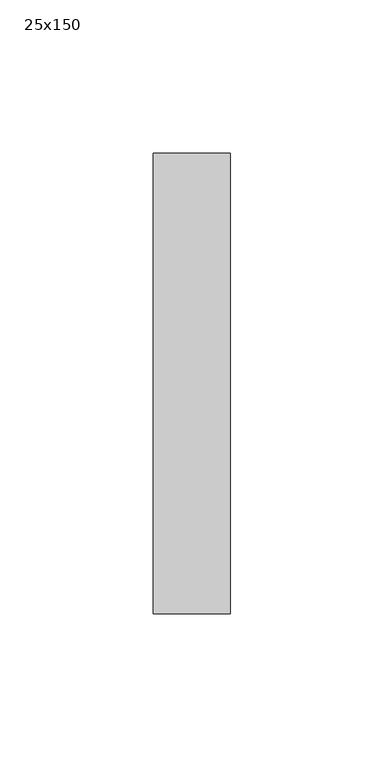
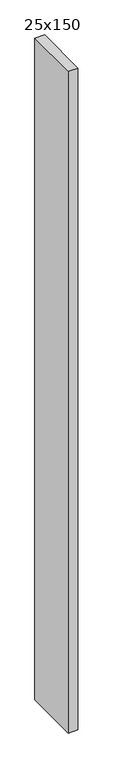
"""IFC4 building model written with IfcOpenShell, lengths in millimetres: member geometry, 長方形のマリオン : 25x150."""

from ifc_helpers import new_model, si_unit, frame, origin, place, context, project, spatial, polyline, outline, extrude, source, transform, mapped, element, save


def member_25x150_e252ec85(model_context):
    return source(origin(), model_context, "Body", "SweptSolid", [
        extrude(outline(polyline([(0.0, 75.0), (0.0, -75.0), (-25.0, -75.0), (-25.0, 75.0), (0.0, 75.0)])), frame((0.0, 0.0, -1816.6666668), z_axis=(0.0, 0.0, 1.0), x_axis=(1.0, 0.0, 0.0)), (0.0, 0.0, 1.0), 1816.6666668),
    ])


if __name__ == "__main__":
    model = new_model("IFC4")
    model_context = context("Model", 3, world=origin())
    ifc_project = project(units=[si_unit("LENGTHUNIT", "METRE", prefix="MILLI")], contexts=[model_context])
    site = spatial("IfcSite", under=ifc_project)
    building = spatial("IfcBuilding", under=site)
    placement = place(None, origin())
    member_25x150_shape = member_25x150_e252ec85(model_context)
    element("IfcMember", 1, ObjectType="長方形のマリオン : 25x150", at=placement, inside=building, context=model_context, shape_type="MappedRepresentation", body=[
        mapped(member_25x150_shape, transform((0.0, 0.0, 0.0), x_axis=(1.0, 0.0, 0.0), y_axis=(0.0, 1.0, 0.0), z_axis=(0.0, 0.0, 1.0))),
    ])
    save(model, "model.ifc")
